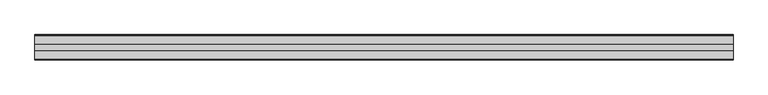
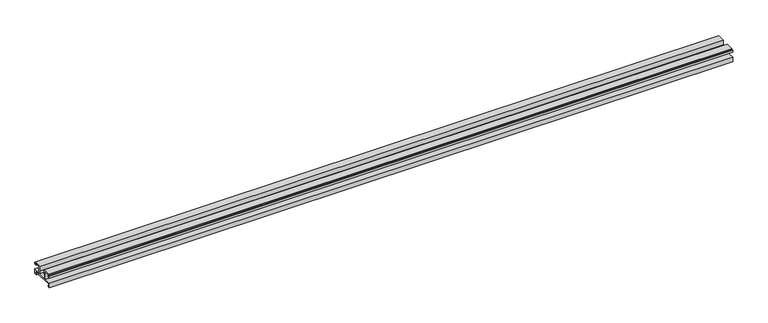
"""IFC4 building model written with IfcOpenShell, lengths in millimetres: proxy geometry, Weiku - Montante - Acoplamento vidro : Weiku - Montante - Acoplamento vidro."""

from ifc_helpers import new_model, si_unit, frame, origin, place, context, project, spatial, polyline, outline, extrude, source, transform, mapped, element, save


def generic_models_ff9f578c(model_context):
    return source(origin(), model_context, "Body", "SweptSolid", [
        extrude(outline(polyline([(35.405, 5.1494), (12.495, 5.1494), (12.495, 6.8004), (2.159, 6.8004), (2.159, 2.6094), (4.0216, 2.6094), (4.0216, 0.0), (-0.0014508, 0.0), (-0.0014508, 8.79), (12.954, 8.79), (12.954, 23.3104), (4.3603, 23.3104), (4.3603, 19.204), (0.0, 19.204), (0.0, 22.8024), (0.9736, 22.8024), (0.9736, 20.3894), (3.175, 20.3894), (3.175, 23.9454), (2.3735496, 23.9454), (2.3735496, 25.3), (17.4836, 25.3), (17.4836, 16.283), (15.4516, 16.283), (15.4516, 8.8), (32.4484, 8.8), (32.4484, 16.283), (30.4164, 16.283), (30.4164, 25.3), (45.5264504, 25.3), (45.5264504, 23.9454), (44.725, 23.9454), (44.725, 20.3894), (46.9264, 20.3894), (46.9264, 22.8024), (47.9, 22.8024), (47.9, 19.204), (43.5397, 19.204), (43.5397, 23.3104), (34.946, 23.3104), (34.946, 8.79), (47.9014508, 8.79), (47.9014508, 0.0), (43.8784, 0.0), (43.8784, 2.6094), (45.741, 2.6094), (45.741, 6.8004), (35.405, 6.8004), (35.405, 5.1494)])), frame((-654.4333333, 0.0, 0.0), z_axis=(1.0, 0.0, 0.0), x_axis=(0.0, 1.0, 0.0)), (0.0, 0.0, 1.0), 1308.8666667),
    ])


if __name__ == "__main__":
    model = new_model("IFC4")
    model_context = context("Model", 3, world=origin())
    ifc_project = project(units=[si_unit("LENGTHUNIT", "METRE", prefix="MILLI")], contexts=[model_context])
    site = spatial("IfcSite", under=ifc_project)
    building = spatial("IfcBuilding", under=site)
    placement = place(None, origin())
    generic_models_shape = generic_models_ff9f578c(model_context)
    element("IfcBuildingElementProxy", 1, Name="Weiku - Montante - Acoplamento vidro : Weiku - Montante - Acoplamento vidro", ObjectType="Weiku - Montante - Acoplamento vidro : Weiku - Montante - Acoplamento vidro", at=placement, inside=building, context=model_context, shape_type="MappedRepresentation", body=[
        mapped(generic_models_shape, transform((0.0, 0.0, 0.0), x_axis=(1.0, 0.0, 0.0), y_axis=(0.0, 1.0, 0.0), z_axis=(0.0, 0.0, 1.0))),
    ])
    save(model, "model.ifc")
